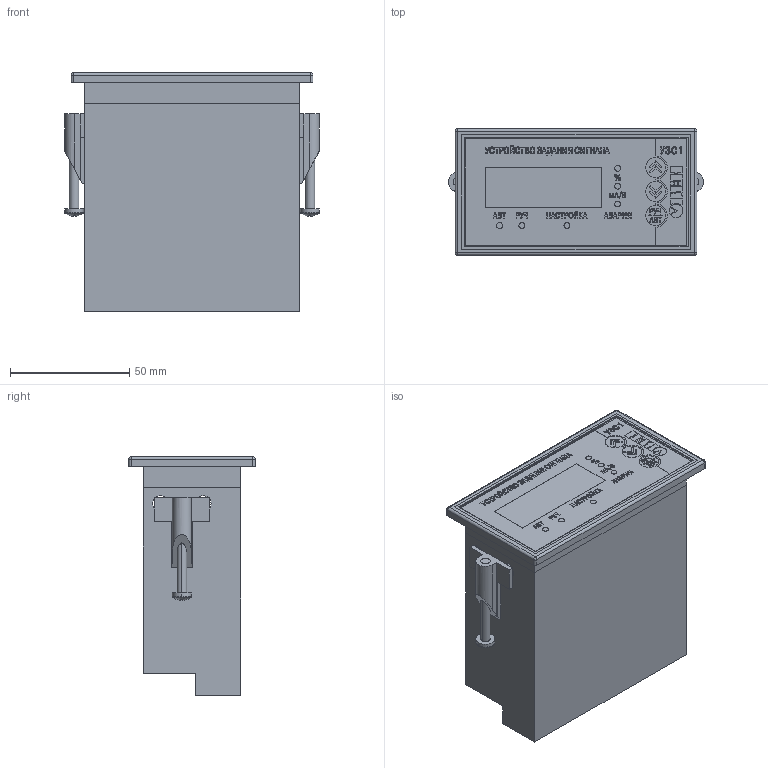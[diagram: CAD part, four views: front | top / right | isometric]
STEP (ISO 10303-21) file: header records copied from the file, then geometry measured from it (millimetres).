
FILE_DESCRIPTION (( 'STEP AP214' ), '1' );
FILE_NAME ('3D Ìîäåëü ÓÇÑ1.Ù2.STEP', '2017-04-02T08:55:38', ( '' ), ( '' ), 'SwSTEP 2.0', 'SolidWorks 2014', '' );
FILE_SCHEMA (( 'AUTOMOTIVE_DESIGN' ));
Length unit declared in the file: millimetre
Products named in the file (8): Êîðïóñ Ù2_2; Êîðïóñ Ù2_1; pan cross head_am_B18.6.7M - M4 x 0.7 x 40 Type I Cross Recessed PHMS --40N; Ñòîïîð âèíòîâîé Ù; Óïëîòíèòåëü Ù2; 3D Ìîäåëü ÓÇÑ1.Ù2; Ïàíåëü ëèöåâàÿ ÓÇÑ1.Ù2; Êëåììà íèçêàÿ_11õ8õ5ìì
Assembly tree (24 placements, depth 2):
  3D Ìîäåëü ÓÇÑ1.Ù2
    Óïëîòíèòåëü Ù2
    Ñòîïîð âèíòîâîé Ù  x2
    pan cross head_am_B18.6.7M - M4 x 0.7 x 40 Type I Cross Recessed PHMS --40N  x2
    Êîðïóñ Ù2_1
    Êîðïóñ Ù2_2
    Êëåììà íèçêàÿ_11õ8õ5ìì  x16
    Ïàíåëü ëèöåâàÿ ÓÇÑ1.Ù2
Bounding box: 107 x 53 x 100.1 mm (x, y, z)
Volume: 99229.5 mm3; surface area: 89240.4 mm2
Topology: 24 solids, 24 shells, 2135 faces, 5630 edges, 3716 vertices
Faces by surface type: plane 1450, bspline 476, cylinder 197, sphere 8, torus 4
Entity records: 59958 total; most frequent: CARTESIAN_POINT 14218, ORIENTED_EDGE 7890, DIRECTION 5160, EDGE_CURVE 3945, VECTOR 2830, LINE 2830, VERTEX_POINT 2620, EDGE_LOOP 1647
